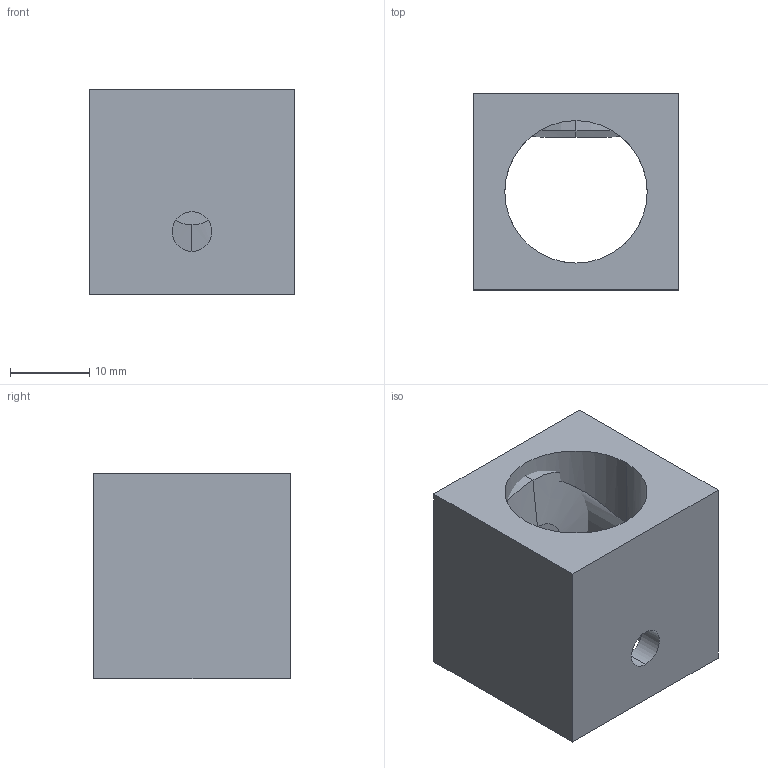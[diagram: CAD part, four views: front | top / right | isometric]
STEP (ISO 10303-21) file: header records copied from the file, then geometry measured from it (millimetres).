
FILE_DESCRIPTION (( 'STEP AP214' ), '1' );
FILE_NAME ('Êîëîäêà ÃÆÈÊ.687229.010.STEP', '2018-05-28T07:03:54', ( '' ), ( '' ), 'SwSTEP 2.0', 'SolidWorks 2018', '' );
FILE_SCHEMA (( 'AUTOMOTIVE_DESIGN' ));
Length unit declared in the file: millimetre
Products named in the file (3): 妈眚 闷仁.758211.009_儐垔.758211.009; Êîëîäêà ÃÆÈÊ.731173.010_ƒ†ˆŠ.731173.010; Êîëîäêà ÃÆÈÊ.687229.010
Assembly tree (2 placements, depth 2):
  Êîëîäêà ÃÆÈÊ.687229.010
    Êîëîäêà ÃÆÈÊ.731173.010_ƒ†ˆŠ.731173.010
    妈眚 闷仁.758211.009_儐垔.758211.009
Bounding box: 26 x 24.8 x 26 mm (x, y, z)
Volume: 9733.9 mm3; surface area: 5928.9 mm2
Topology: 2 solids, 2 shells, 29 faces, 74 edges, 48 vertices
Faces by surface type: plane 15, cylinder 10, cone 4
Entity records: 1268 total; most frequent: CARTESIAN_POINT 372, DIRECTION 154, ORIENTED_EDGE 148, EDGE_CURVE 74, AXIS2_PLACEMENT_3D 54, VERTEX_POINT 48, VECTOR 46, LINE 46
